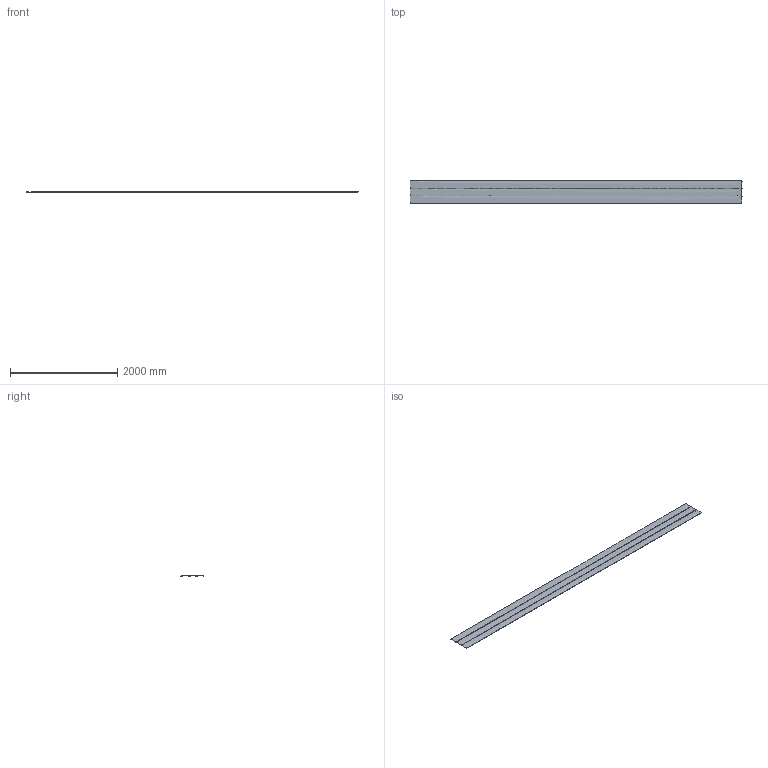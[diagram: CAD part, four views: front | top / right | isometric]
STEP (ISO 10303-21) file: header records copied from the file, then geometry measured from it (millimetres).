
FILE_DESCRIPTION(/* description */ (''),/* implementation_level */ '2;1');
FILE_NAME(/* name */ 'PREFA_~2',/* time_stamp */ '2020-07-21T12:50:09+02:00',/* author */ (''),/* organization */ (''),/* preprocessor_version */ 'ST-DEVELOPER v15',/* originating_system */ '',/* authorisation */ '');
FILE_SCHEMA (('AUTOMOTIVE_DESIGN'));
Length unit declared in the file: millimetre
Products named in the file (1): Document
Bounding box: 6200 x 422.6 x 6.5 mm (x, y, z)
Surface area: 2954685.1 mm2 (no closed solid volume)
Topology: 0 solids, 3 shells, 3 faces, 12 edges, 12 vertices
Faces by surface type: bspline 3
Entity records: 312 total; most frequent: CARTESIAN_POINT 230, ORIENTED_EDGE 12, EDGE_CURVE 12, VERTEX_POINT 12, B_SPLINE_CURVE_WITH_KNOTS 6, DIRECTION 4, PRESENTATION_LAYER_ASSIGNMENT 3, SHELL_BASED_SURFACE_MODEL 3
